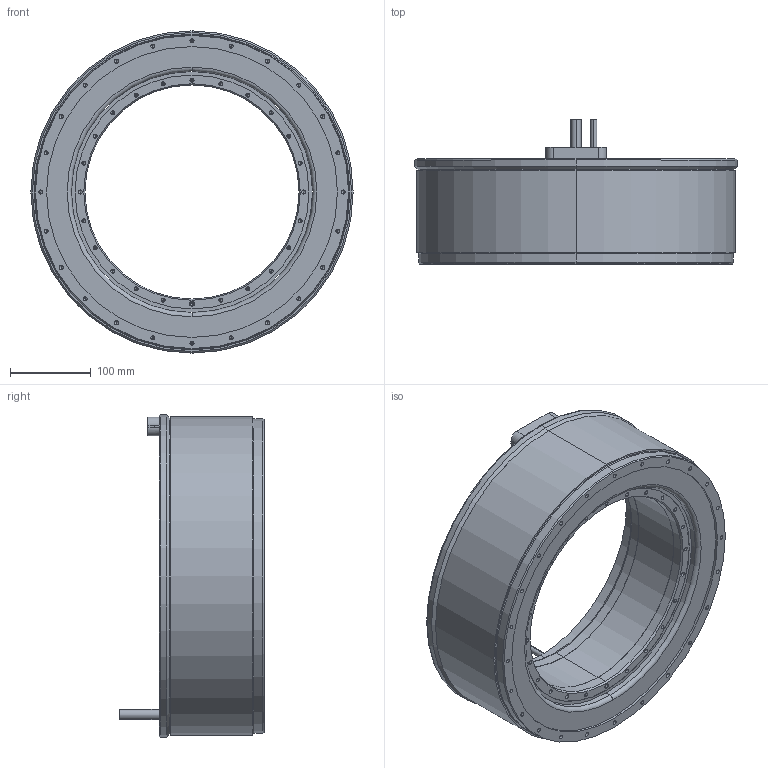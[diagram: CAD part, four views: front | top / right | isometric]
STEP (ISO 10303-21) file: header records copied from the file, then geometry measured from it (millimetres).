
FILE_DESCRIPTION (( 'STEP AP203' ), '1' );
FILE_NAME ('TM-2-A9-PB0(J0).STEP', '2023-06-06T02:21:14', ( '' ), ( '' ), 'SwSTEP 2.0', 'SolidWorks 2015', '' );
FILE_SCHEMA (( 'CONFIG_CONTROL_DESIGN' ));
Length unit declared in the file: millimetre
Products named in the file (3): TM-2-A9-PB0(J0)_Stator; TM-2-A9-PB0(J0); TM-2-A9(J0)_Rotor
Assembly tree (2 placements, depth 2):
  TM-2-A9-PB0(J0)
    TM-2-A9-PB0(J0)_Stator
    TM-2-A9(J0)_Rotor
Bounding box: 399 x 179 x 399 mm (x, y, z)
Volume: 7953768.4 mm3; surface area: 612589.8 mm2
Topology: 2 solids, 2 shells, 523 faces, 1266 edges, 670 vertices
Faces by surface type: cylinder 248, cone 216, plane 51, torus 8
Entity records: 14111 total; most frequent: DIRECTION 2660, CARTESIAN_POINT 2268, ORIENTED_EDGE 2140, EDGE_CURVE 1070, AXIS2_PLACEMENT_3D 1062, VERTEX_POINT 670, EDGE_LOOP 646, VECTOR 536
